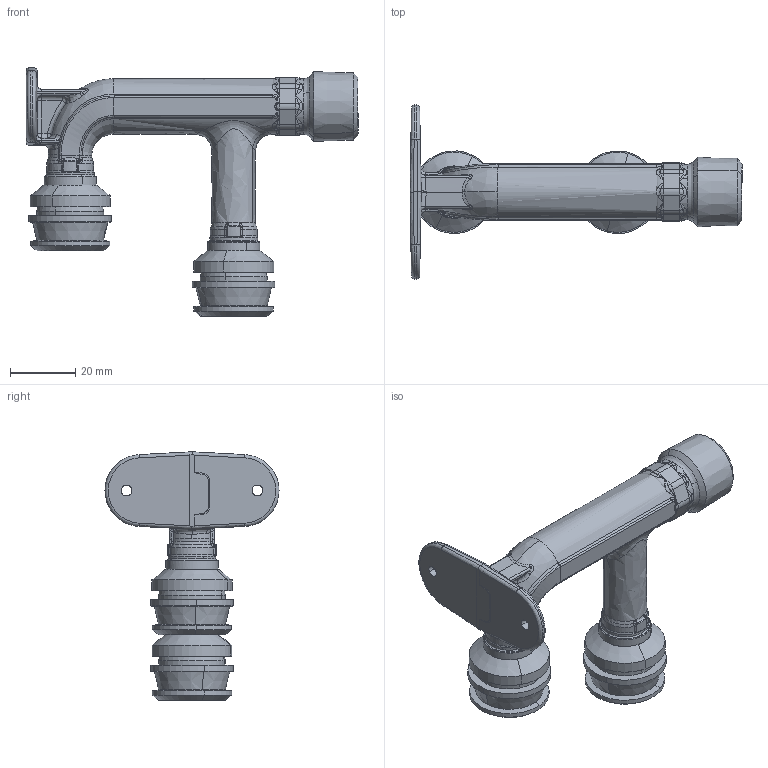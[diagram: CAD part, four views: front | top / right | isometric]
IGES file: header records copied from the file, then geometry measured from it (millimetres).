
Start section: 3D InterOp IGES (Version 25 0 1), Spatial Corp. Copyright (c) 1999-2007.
Global section: file name: pim0006857.igs; native system: Spatial Corp.; preprocessor: 3D InterOp ACIS/IGES; author: CAD-PIM; organization: TransMagic, Inc.; date: 20150619.081453; units: millimetre
Bounding box: 101.5 x 53.2 x 75.93 mm (x, y, z)
Volume: 45339.9 mm3; surface area: 18434.7 mm2
Topology: 1 solids, 1 shells, 516 faces, 1319 edges, 791 vertices
Faces by surface type: bspline 347, cylinder 95, plane 54, cone 20
